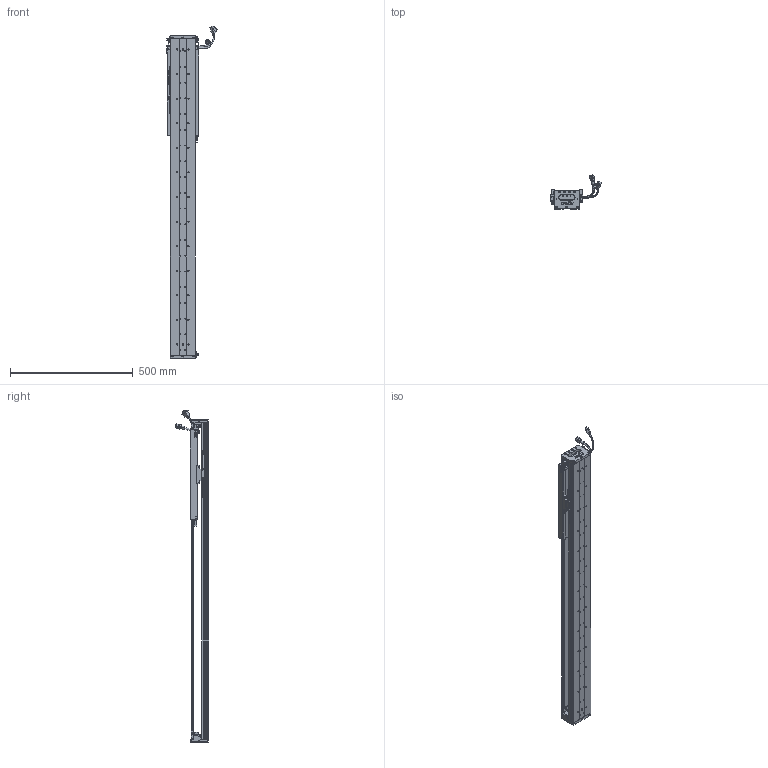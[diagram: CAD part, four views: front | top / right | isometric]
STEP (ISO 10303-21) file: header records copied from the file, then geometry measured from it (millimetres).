
FILE_DESCRIPTION (( 'STEP AP203' ), '1' );
FILE_NAME ('Z5-RY100D-1-L500-B-K.SLDASM_0850.step', '2021-05-17T03:32:49', ( '盈信电脑' ), ( '东莞市道滘镇水果街19号' ), 'SwSTEP 2.0', 'SolidWorks 2016', '' );
FILE_SCHEMA (( 'CONFIG_CONTROL_DESIGN' ));
Length unit declared in the file: millimetre
Products named in the file (36): 榋妏寠巭燃_暯_M2_2; SCREW-M1.7; Z-RY100D詩湍奻揤裔; Z5-RY100D-500-倰第菁釱_0850; 覜茼ん672; COVER; LABEL-Part-1; SEAL-Part-1; 140蚥薯蝶輸; SEAL; PSLH080_PSLF2; SCALE-Part-2; SCREW-M1.6; SCREW-M1.6-1; SCALE-Part-1; Z5-RY100D-1-L500-B-K.SLDASM_0850; HARNESS-Part-1; Z5-RY100-L500詩湍90mm遵_0850; PBU_SHEET; HOLDER0; 140雄赽晤鎢ん堤盄; SCREW-M1.6-3; SCREW-M1.7-1; HARNESS; SHIELDPLATE; COVER-Part-1; SCALE; Z5-RY100铝滑块（21款）; Z-RY100D詩湍狟揤裔; HARNESS-Part-2; Z-100詩湍傷裔啣; LABEL; 080黍杅芛假蚾釱21遴; 100-Z-臏賑輸盄裔(21遴); SCREW-M1.6-2; Z-RY100D覜茼んえ
Assembly tree (43 placements, depth 4):
  Z5-RY100D-1-L500-B-K.SLDASM_0850
    Z5-RY100D-500-倰第菁釱_0850
    Z5-RY100铝滑块（21款）
    PSLH080_PSLF2
      SCALE
        SCALE-Part-1
        SCALE-Part-2
      HARNESS
        HARNESS-Part-1
        HARNESS-Part-2
      LABEL
        LABEL-Part-1
      COVER
        COVER-Part-1
      SEAL
        SEAL-Part-1
      榋妏寠巭燃_暯_M2_2
      SHIELDPLATE
      SCREW-M1.7
      SCREW-M1.7-1
      PBU_SHEET
      SCREW-M1.6
      SCREW-M1.6-1
      SCREW-M1.6-2
      SCREW-M1.6-3
      HOLDER0
    080黍杅芛假蚾釱21遴
    Z-100詩湍傷裔啣  x2
    140蚥薯蝶輸  x2
    覜茼ん672  x3
    Z-RY100D覜茼んえ  x3
    100-Z-臏賑輸盄裔(21遴)
    140雄赽晤鎢ん堤盄
    Z5-RY100-L500詩湍90mm遵_0850
    Z-RY100D詩湍狟揤裔  x2
    Z-RY100D詩湍奻揤裔  x2
Bounding box: 205.84 x 136.11 x 1350.43 mm (x, y, z)
Volume: 2988542.1 mm3; surface area: 1115874.8 mm2
Topology: 38 solids, 38 shells, 2663 faces, 7033 edges, 4456 vertices
Faces by surface type: cylinder 1182, plane 1133, cone 226, torus 69, bspline 53
Entity records: 73191 total; most frequent: CARTESIAN_POINT 15391, DIRECTION 11639, ORIENTED_EDGE 10946, EDGE_CURVE 5473, AXIS2_PLACEMENT_3D 4300, VERTEX_POINT 3524, VECTOR 3039, LINE 3039
